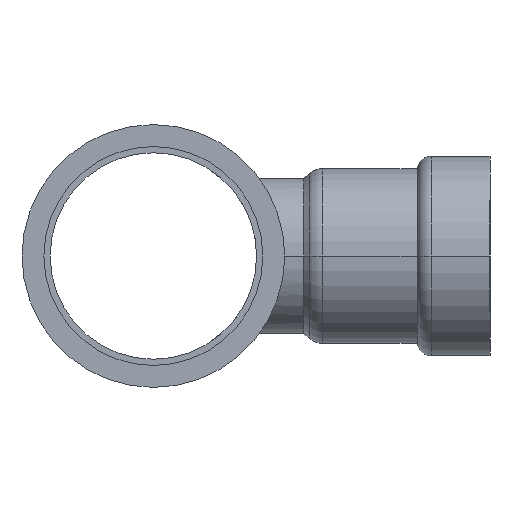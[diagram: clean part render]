
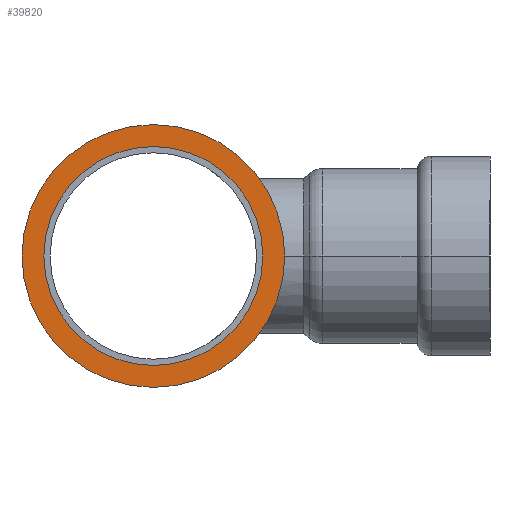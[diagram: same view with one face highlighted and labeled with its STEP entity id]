
A CAD part, left-side view. The second image highlights one B-rep face of the part: STEP entity #39820.
In plain terms, the highlighted planar face has unit normal (-1, 0, 0).
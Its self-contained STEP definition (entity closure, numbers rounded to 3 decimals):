
#39340=CARTESIAN_POINT('',(53.136,49.095,30.75));
#39350=VERTEX_POINT('',#39340);
#39430=CARTESIAN_POINT('',(53.136,49.095,-30.75));
#39440=VERTEX_POINT('',#39430);
#39470=CARTESIAN_POINT('',(53.136,49.095,
0.));
#39480=DIRECTION('',(1.,0.,0.));
#39490=DIRECTION('',(0.,0.,1.));
#39500=AXIS2_PLACEMENT_3D('',#39470,#39480,#39490);
#39510=CIRCLE('',#39500,30.75);
#39520=EDGE_CURVE('',#39440,#39350,#39510,.T.);
#39570=CARTESIAN_POINT('',(53.136,49.095,-35.85));
#39580=DIRECTION('',(1.,0.,0.));
#39590=DIRECTION('',(0.,0.,1.));
#39600=AXIS2_PLACEMENT_3D('',#39570,#39580,#39590);
#39610=PLANE('',#39600);
#39620=EDGE_CURVE('',#39350,#39440,#39510,.T.);
#39630=ORIENTED_EDGE('',*,*,#39620,.T.);
#39640=ORIENTED_EDGE('',*,*,#39520,.T.);
#39650=EDGE_LOOP('',(#39640,#39630));
#39660=FACE_BOUND('',#39650,.T.);
#39670=CARTESIAN_POINT('',(53.136,49.095,
0.));
#39680=DIRECTION('',(1.,0.,0.));
#39690=DIRECTION('',(0.,0.,-1.));
#39700=AXIS2_PLACEMENT_3D('',#39670,#39680,#39690);
#39710=CIRCLE('',#39700,36.9);
#39720=CARTESIAN_POINT('',(53.136,49.095,-36.9));
#39730=VERTEX_POINT('',#39720);
#39740=CARTESIAN_POINT('',(53.136,49.095,36.9));
#39750=VERTEX_POINT('',#39740);
#39760=EDGE_CURVE('',#39730,#39750,#39710,.T.);
#39770=ORIENTED_EDGE('',*,*,#39760,.F.);
#39780=EDGE_CURVE('',#39750,#39730,#39710,.T.);
#39790=ORIENTED_EDGE('',*,*,#39780,.F.);
#39800=EDGE_LOOP('',(#39790,#39770));
#39810=FACE_OUTER_BOUND('',#39800,.T.);
#39820=ADVANCED_FACE('',(#39660,#39810),#39610,.F.);
